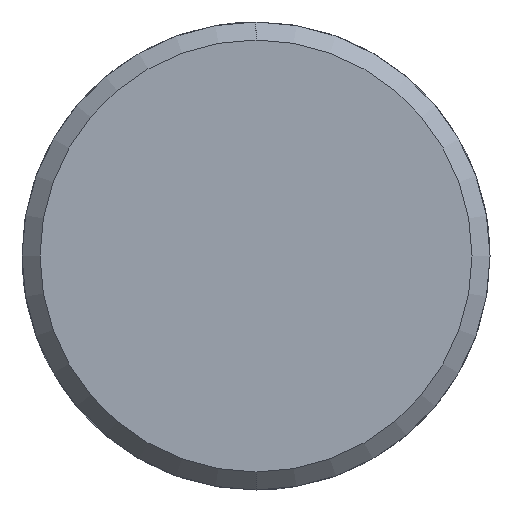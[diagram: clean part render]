
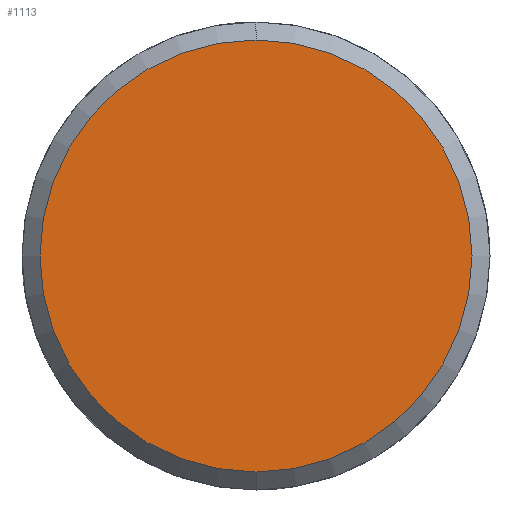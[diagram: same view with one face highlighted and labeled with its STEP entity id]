
A CAD part, left-side view. The second image highlights one B-rep face of the part: STEP entity #1113.
In plain terms, the highlighted planar face has unit normal (-1, 0, 0).
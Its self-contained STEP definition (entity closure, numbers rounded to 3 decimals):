
#1045=CARTESIAN_POINT('Vertex',(-5.,0.,-12.)) ;
#1048=CARTESIAN_POINT('Axis2P3D Location',(-5.,0.,0.)) ;
#1052=CARTESIAN_POINT('Vertex',(-5.,12.,0.)) ;
#1055=CARTESIAN_POINT('Axis2P3D Location',(-5.,0.,0.)) ;
#1059=CARTESIAN_POINT('Vertex',(-5.,0.,12.)) ;
#1081=CARTESIAN_POINT('Axis2P3D Location',(-5.,0.,0.)) ;
#1085=CARTESIAN_POINT('Vertex',(-5.,-12.,0.)) ;
#1088=CARTESIAN_POINT('Axis2P3D Location',(-5.,0.,0.)) ;
#1102=CARTESIAN_POINT('Axis2P3D Location',(-5.,0.,0.)) ;
#1049=DIRECTION('Axis2P3D Direction',(1.,0.,-0.)) ;
#1056=DIRECTION('Axis2P3D Direction',(1.,0.,-0.)) ;
#1082=DIRECTION('Axis2P3D Direction',(1.,0.,-0.)) ;
#1089=DIRECTION('Axis2P3D Direction',(1.,0.,-0.)) ;
#1103=DIRECTION('Axis2P3D Direction',(1.,0.,-0.)) ;
#1104=DIRECTION('Axis2P3D XDirection',(-0.,0.,-1.)) ;
#1050=AXIS2_PLACEMENT_3D('Circle Axis2P3D',#1048,#1049,$) ;
#1057=AXIS2_PLACEMENT_3D('Circle Axis2P3D',#1055,#1056,$) ;
#1083=AXIS2_PLACEMENT_3D('Circle Axis2P3D',#1081,#1082,$) ;
#1090=AXIS2_PLACEMENT_3D('Circle Axis2P3D',#1088,#1089,$) ;
#1105=AXIS2_PLACEMENT_3D('Plane Axis2P3D',#1102,#1103,#1104) ;
#1108=ORIENTED_EDGE('',*,*,#1054,.F.) ;
#1109=ORIENTED_EDGE('',*,*,#1092,.F.) ;
#1110=ORIENTED_EDGE('',*,*,#1087,.F.) ;
#1111=ORIENTED_EDGE('',*,*,#1061,.F.) ;
#1113=ADVANCED_FACE('351-16X26X70',(#1112),#1106,.F.) ;
#1051=CIRCLE('generated circle',#1050,12.) ;
#1058=CIRCLE('generated circle',#1057,12.) ;
#1084=CIRCLE('generated circle',#1083,12.) ;
#1091=CIRCLE('generated circle',#1090,12.) ;
#1054=EDGE_CURVE('',#1046,#1053,#1051,.T.) ;
#1061=EDGE_CURVE('',#1053,#1060,#1058,.T.) ;
#1087=EDGE_CURVE('',#1060,#1086,#1084,.T.) ;
#1092=EDGE_CURVE('',#1086,#1046,#1091,.T.) ;
#1107=EDGE_LOOP('',(#1108,#1109,#1110,#1111)) ;
#1112=FACE_OUTER_BOUND('',#1107,.T.) ;
#1106=PLANE('Plane',#1105) ;
#1046=VERTEX_POINT('',#1045) ;
#1053=VERTEX_POINT('',#1052) ;
#1060=VERTEX_POINT('',#1059) ;
#1086=VERTEX_POINT('',#1085) ;
